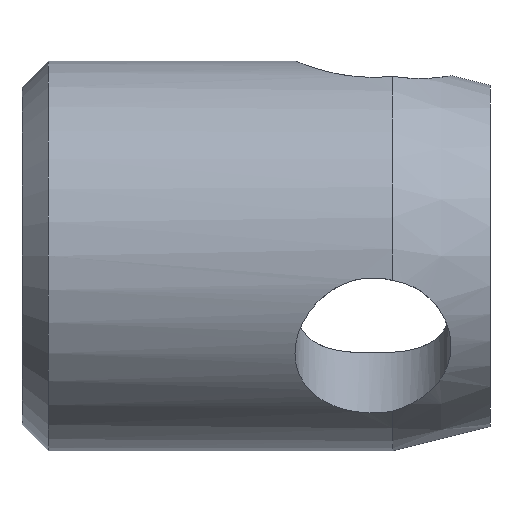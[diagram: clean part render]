
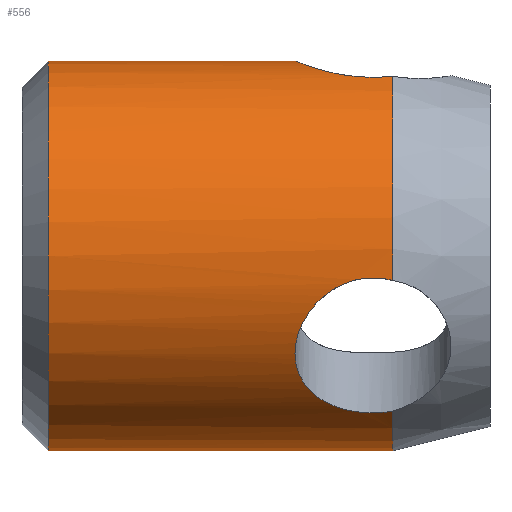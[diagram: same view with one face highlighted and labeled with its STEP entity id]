
A CAD part, front view. The second image highlights one B-rep face of the part: STEP entity #556.
In plain terms, the highlighted cylindrical face has radius 5 mm (diameter 10 mm), a partial arc.
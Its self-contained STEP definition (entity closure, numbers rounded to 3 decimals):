
#10 = DIRECTION ( 'NONE',  ( 1., 0., 0. ) ) ;
#13 = CARTESIAN_POINT ( 'NONE',  ( -5., -4.253, -2.634 ) ) ;
#20 = CARTESIAN_POINT ( 'NONE',  ( -4.982, -4.477, -2.231 ) ) ;
#24 = CARTESIAN_POINT ( 'NONE',  ( -3.98, -3.182, -3.858 ) ) ;
#29 = CARTESIAN_POINT ( 'NONE',  ( -4.645, -4.79, -1.44 ) ) ;
#35 = CARTESIAN_POINT ( 'NONE',  ( -11.325, 0., 0. ) ) ;
#44 = CARTESIAN_POINT ( 'NONE',  ( -11.325, 0., -5. ) ) ;
#54 = CARTESIAN_POINT ( 'NONE',  ( -2.5, 0., 0. ) ) ;
#84 = VECTOR ( 'NONE', #249, 1000. ) ;
#94 = EDGE_CURVE ( 'NONE', #312, #228, #179, .T. ) ;
#96 = CARTESIAN_POINT ( 'NONE',  ( -4.727, -3.731, -3.332 ) ) ;
#101 = EDGE_CURVE ( 'NONE', #792, #369, #799, .T. ) ;
#107 = CARTESIAN_POINT ( 'NONE',  ( -2.649, -2.991, -4.007 ) ) ;
#110 = DIRECTION ( 'NONE',  ( 0., 0., -1. ) ) ;
#114 = CARTESIAN_POINT ( 'NONE',  ( -3.991, -4.937, -0.815 ) ) ;
#120 = CARTESIAN_POINT ( 'NONE',  ( -2.649, -4.966, -0.586 ) ) ;
#121 = ORIENTED_EDGE ( 'NONE', *, *, #946, .F. ) ;
#126 = CARTESIAN_POINT ( 'NONE',  ( -5., -4.33, -2.5 ) ) ;
#148 = CARTESIAN_POINT ( 'NONE',  ( -4.347, -1.486, 4.775 ) ) ;
#156 = CARTESIAN_POINT ( 'NONE',  ( -11.325, 0., 5. ) ) ;
#159 = EDGE_CURVE ( 'NONE', #160, #685, #325, .T. ) ;
#160 = VERTEX_POINT ( 'NONE', #236 ) ;
#175 = CARTESIAN_POINT ( 'NONE',  ( -4.455, -3.473, -3.599 ) ) ;
#179 = B_SPLINE_CURVE_WITH_KNOTS ( 'NONE', 3,
 ( #485, #736, #20, #492, #323, #637, #29, #897, #269, #114, #429, #497, #754, #358, #120, #591 ),
 .UNSPECIFIED., .F., .F.,
 ( 4, 2, 2, 2, 2, 2, 2, 4 ),
 ( 0.004, 0.004, 0.005, 0.005, 0.005, 0.006, 0.007, 0.007 ),
 .UNSPECIFIED. ) ;
#188 = DIRECTION ( 'NONE',  ( 1., 0., 0. ) ) ;
#192 = CARTESIAN_POINT ( 'NONE',  ( -2.649, -1.975, 4.594 ) ) ;
#197 = CARTESIAN_POINT ( 'NONE',  ( -2.8, -1.996, 4.584 ) ) ;
#200 = CARTESIAN_POINT ( 'NONE',  ( 21.562, 0., -5. ) ) ;
#206 = FACE_OUTER_BOUND ( 'NONE', #746, .T. ) ;
#224 = ORIENTED_EDGE ( 'NONE', *, *, #257, .F. ) ;
#228 = VERTEX_POINT ( 'NONE', #243 ) ;
#236 = CARTESIAN_POINT ( 'NONE',  ( -2.5, -1.936, 4.61 ) ) ;
#243 = CARTESIAN_POINT ( 'NONE',  ( -2.5, -4.96, -0.628 ) ) ;
#249 = DIRECTION ( 'NONE',  ( 1., 0., 0. ) ) ;
#253 = LINE ( 'NONE', #200, #84 ) ;
#257 = EDGE_CURVE ( 'NONE', #792, #685, #638, .T. ) ;
#262 = DIRECTION ( 'NONE',  ( 0., 0., 1. ) ) ;
#263 = CIRCLE ( 'NONE', #333, 5. ) ;
#269 = CARTESIAN_POINT ( 'NONE',  ( -4.347, -4.878, -1.101 ) ) ;
#273 = B_SPLINE_CURVE_WITH_KNOTS ( 'NONE', 3,
 ( #879, #107, #585, #896, #349, #496, #417, #24, #344, #735, #175, #479, #96, #408, #727, #821, #13, #744 ),
 .UNSPECIFIED., .F., .F.,
 ( 4, 2, 2, 2, 2, 2, 2, 2, 4 ),
 ( 0., 0., 0.001, 0.001, 0.002, 0.002, 0.003, 0.003, 0.004 ),
 .UNSPECIFIED. ) ;
#287 = ORIENTED_EDGE ( 'NONE', *, *, #919, .T. ) ;
#293 = CARTESIAN_POINT ( 'NONE',  ( -2.5, -3.024, -3.982 ) ) ;
#312 = VERTEX_POINT ( 'NONE', #126 ) ;
#316 = CARTESIAN_POINT ( 'NONE',  ( -4.644, -1.149, 4.868 ) ) ;
#323 = CARTESIAN_POINT ( 'NONE',  ( -4.861, -4.657, -1.824 ) ) ;
#325 = B_SPLINE_CURVE_WITH_KNOTS ( 'NONE', 3,
 ( #828, #192, #197, #423, #900, #849, #379, #1017, #784, #148, #790, #316, #943, #1008, #695, #548, #460, #624 ),
 .UNSPECIFIED., .F., .F.,
 ( 4, 2, 2, 2, 2, 2, 2, 2, 4 ),
 ( 0., 0., 0.001, 0.001, 0.002, 0.002, 0.003, 0.003, 0.004 ),
 .UNSPECIFIED. ) ;
#333 = AXIS2_PLACEMENT_3D ( 'NONE', #892, #188, #110 ) ;
#344 = CARTESIAN_POINT ( 'NONE',  ( -4.108, -3.246, -3.804 ) ) ;
#350 = DIRECTION ( 'NONE',  ( 1., 0., 0. ) ) ;
#349 = CARTESIAN_POINT ( 'NONE',  ( -3.262, -2.979, -4.016 ) ) ;
#358 = CARTESIAN_POINT ( 'NONE',  ( -2.803, -4.968, -0.563 ) ) ;
#361 = DIRECTION ( 'NONE',  ( 1., 0., 0. ) ) ;
#364 = DIRECTION ( 'NONE',  ( 0., 0., -1. ) ) ;
#369 = VERTEX_POINT ( 'NONE', #44 ) ;
#375 = DIRECTION ( 'NONE',  ( 0., 0., -1. ) ) ;
#379 = CARTESIAN_POINT ( 'NONE',  ( -3.706, -1.878, 4.635 ) ) ;
#408 = CARTESIAN_POINT ( 'NONE',  ( -4.86, -3.908, -3.122 ) ) ;
#417 = CARTESIAN_POINT ( 'NONE',  ( -3.706, -3.075, -3.943 ) ) ;
#423 = CARTESIAN_POINT ( 'NONE',  ( -3.106, -2.003, 4.581 ) ) ;
#429 = CARTESIAN_POINT ( 'NONE',  ( -3.711, -4.955, -0.674 ) ) ;
#460 = CARTESIAN_POINT ( 'NONE',  ( -5., -0.155, 5. ) ) ;
#479 = CARTESIAN_POINT ( 'NONE',  ( -4.644, -3.641, -3.429 ) ) ;
#485 = CARTESIAN_POINT ( 'NONE',  ( -5., -4.33, -2.5 ) ) ;
#492 = CARTESIAN_POINT ( 'NONE',  ( -4.913, -4.602, -1.96 ) ) ;
#497 = CARTESIAN_POINT ( 'NONE',  ( -3.262, -4.967, -0.572 ) ) ;
#496 = CARTESIAN_POINT ( 'NONE',  ( -3.559, -3.033, -3.975 ) ) ;
#510 = CYLINDRICAL_SURFACE ( 'NONE', #751, 5. ) ;
#512 = VECTOR ( 'NONE', #10, 1000. ) ;
#516 = AXIS2_PLACEMENT_3D ( 'NONE', #54, #361, #375 ) ;
#523 = CARTESIAN_POINT ( 'NONE',  ( -2.5, 0., -5. ) ) ;
#547 = AXIS2_PLACEMENT_3D ( 'NONE', #35, #350, #262 ) ;
#548 = CARTESIAN_POINT ( 'NONE',  ( -4.982, -0.309, 4.993 ) ) ;
#556 = ADVANCED_FACE ( 'NONE', ( #206 ), #510, .T. ) ;
#559 = CARTESIAN_POINT ( 'NONE',  ( 21.562, 0., 5. ) ) ;
#585 = CARTESIAN_POINT ( 'NONE',  ( -2.8, -2.972, -4.021 ) ) ;
#591 = CARTESIAN_POINT ( 'NONE',  ( -2.5, -4.96, -0.628 ) ) ;
#597 = CARTESIAN_POINT ( 'NONE',  ( 21.562, 0., 0. ) ) ;
#620 = ORIENTED_EDGE ( 'NONE', *, *, #159, .T. ) ;
#624 = CARTESIAN_POINT ( 'NONE',  ( -5., 0., 5. ) ) ;
#637 = CARTESIAN_POINT ( 'NONE',  ( -4.727, -4.751, -1.565 ) ) ;
#638 = LINE ( 'NONE', #559, #512 ) ;
#643 = EDGE_CURVE ( 'NONE', #369, #998, #253, .T. ) ;
#683 = ORIENTED_EDGE ( 'NONE', *, *, #643, .T. ) ;
#685 = VERTEX_POINT ( 'NONE', #819 ) ;
#695 = CARTESIAN_POINT ( 'NONE',  ( -4.912, -0.607, 4.965 ) ) ;
#714 = EDGE_CURVE ( 'NONE', #769, #998, #263, .T. ) ;
#727 = CARTESIAN_POINT ( 'NONE',  ( -4.912, -3.996, -3.009 ) ) ;
#736 = CARTESIAN_POINT ( 'NONE',  ( -5., -4.408, -2.366 ) ) ;
#735 = CARTESIAN_POINT ( 'NONE',  ( -4.347, -3.392, -3.675 ) ) ;
#744 = CARTESIAN_POINT ( 'NONE',  ( -5., -4.33, -2.5 ) ) ;
#746 = EDGE_LOOP ( 'NONE', ( #224, #762, #683, #1001, #287, #861, #121, #620 ) ) ;
#751 = AXIS2_PLACEMENT_3D ( 'NONE', #597, #904, #364 ) ;
#754 = CARTESIAN_POINT ( 'NONE',  ( -3.11, -4.969, -0.556 ) ) ;
#762 = ORIENTED_EDGE ( 'NONE', *, *, #101, .T. ) ;
#769 = VERTEX_POINT ( 'NONE', #293 ) ;
#784 = CARTESIAN_POINT ( 'NONE',  ( -4.108, -1.672, 4.713 ) ) ;
#790 = CARTESIAN_POINT ( 'NONE',  ( -4.455, -1.381, 4.807 ) ) ;
#792 = VERTEX_POINT ( 'NONE', #156 ) ;
#799 = CIRCLE ( 'NONE', #547, 5. ) ;
#819 = CARTESIAN_POINT ( 'NONE',  ( -5., 0., 5. ) ) ;
#821 = CARTESIAN_POINT ( 'NONE',  ( -4.982, -4.17, -2.764 ) ) ;
#828 = CARTESIAN_POINT ( 'NONE',  ( -2.5, -1.936, 4.61 ) ) ;
#849 = CARTESIAN_POINT ( 'NONE',  ( -3.559, -1.926, 4.614 ) ) ;
#861 = ORIENTED_EDGE ( 'NONE', *, *, #94, .T. ) ;
#875 = CIRCLE ( 'NONE', #516, 5. ) ;
#879 = CARTESIAN_POINT ( 'NONE',  ( -2.5, -3.024, -3.982 ) ) ;
#892 = CARTESIAN_POINT ( 'NONE',  ( -2.5, 0., 0. ) ) ;
#897 = CARTESIAN_POINT ( 'NONE',  ( -4.454, -4.854, -1.207 ) ) ;
#896 = CARTESIAN_POINT ( 'NONE',  ( -3.106, -2.966, -4.025 ) ) ;
#900 = CARTESIAN_POINT ( 'NONE',  ( -3.262, -1.989, 4.588 ) ) ;
#904 = DIRECTION ( 'NONE',  ( 1., 0., 0. ) ) ;
#919 = EDGE_CURVE ( 'NONE', #769, #312, #273, .T. ) ;
#943 = CARTESIAN_POINT ( 'NONE',  ( -4.727, -1.02, 4.897 ) ) ;
#946 = EDGE_CURVE ( 'NONE', #160, #228, #875, .T. ) ;
#998 = VERTEX_POINT ( 'NONE', #523 ) ;
#1001 = ORIENTED_EDGE ( 'NONE', *, *, #714, .F. ) ;
#1008 = CARTESIAN_POINT ( 'NONE',  ( -4.86, -0.75, 4.945 ) ) ;
#1017 = CARTESIAN_POINT ( 'NONE',  ( -3.98, -1.75, 4.684 ) ) ;
